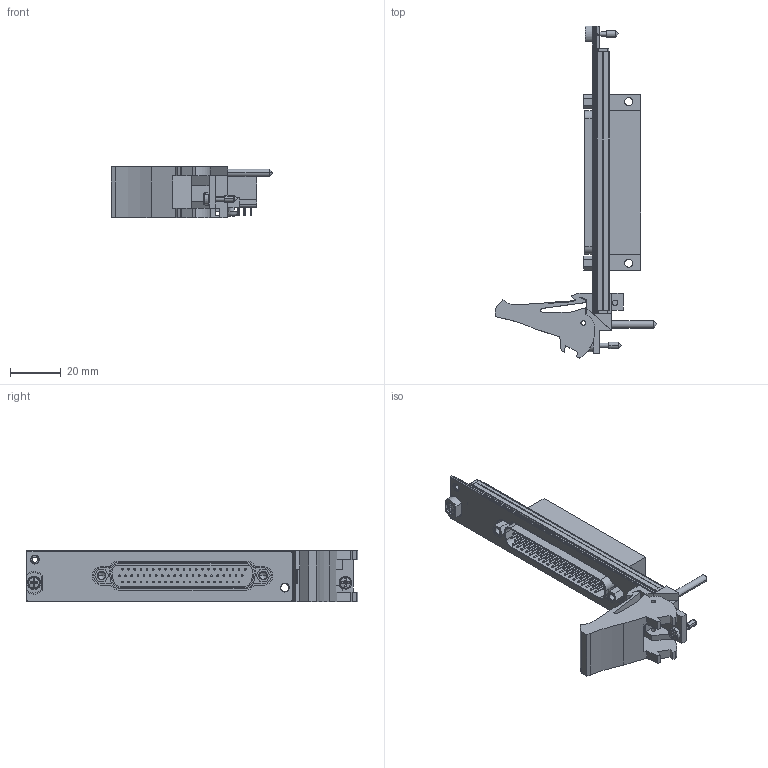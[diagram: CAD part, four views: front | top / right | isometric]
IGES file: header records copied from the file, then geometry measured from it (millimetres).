
Start section:  PTC IGES file: cu_pxi-2568.igs
Global section: file name: cu_pxi-2568.igs; native system: Pro/ENGINEER by Parametric Technology Corporation; preprocessor: 2006080; author: jjorden; organization: Unknown; date: 090909.083533; units: inch
Bounding box: 63.53 x 130.47 x 20.31 mm (x, y, z)
Surface area: 21686.6 mm2 (no closed solid volume)
Topology: 0 solids, 0 shells, 877 faces, 4126 edges, 4114 vertices
Faces by surface type: bspline 441, revolution 436
